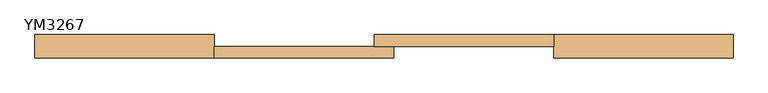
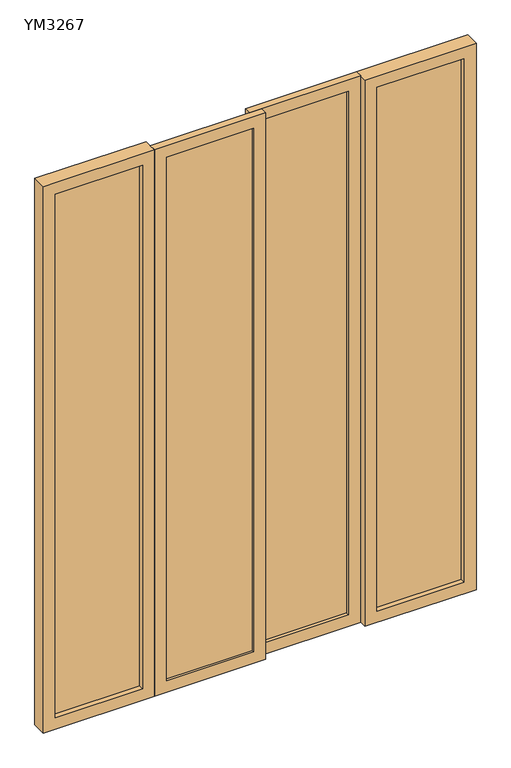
"""IFC4 building model written with IfcOpenShell, lengths in millimetres: door geometry, 移门-推拉门 : YM3267."""

from ifc_helpers import new_model, si_unit, frame, origin, place, context, project, spatial, polyline, outline, extrude, source, transform, mapped, element, save


def ym3267_0cb6c473(model_context):
    return source(origin(), model_context, "Body", "SweptSolid", [
        extrude(outline(polyline([(-25.0, -5.0), (-387.5, -5.0), (-387.5, 5.0), (-25.0, 5.0), (-25.0, -5.0)])), frame((0.0, 0.0, 50.0), z_axis=(0.0, 0.0, 1.0), x_axis=(1.0, 0.0, 0.0)), (0.0, 0.0, 1.0), 2300.0),
        extrude(outline(polyline([(387.5, 30.0), (25.0, 30.0), (25.0, 40.0), (387.5, 40.0), (387.5, 30.0)])), frame((0.0, 0.0, 50.0), z_axis=(0.0, 0.0, 1.0), x_axis=(1.0, 0.0, 0.0)), (0.0, 0.0, 1.0), 2300.0),
        extrude(outline(polyline([(-487.5, 5.7105538), (-850.0, 5.7105538), (-850.0, 25.7105538), (-487.5, 25.7105538), (-487.5, 5.7105538)])), frame((0.0, 0.0, 50.0), z_axis=(0.0, 0.0, 1.0), x_axis=(1.0, 0.0, 0.0)), (0.0, 0.0, 1.0), 2300.0),
        extrude(outline(polyline([(850.0, 5.7105538), (487.5, 5.7105538), (487.5, 25.7105538), (850.0, 25.7105538), (850.0, 5.7105538)])), frame((0.0, 0.0, 50.0), z_axis=(0.0, 0.0, 1.0), x_axis=(1.0, 0.0, 0.0)), (0.0, 0.0, 1.0), 2300.0),
        extrude(outline(polyline([(0.0, 437.5), (2400.0, 437.5), (2400.0, -25.0), (0.0, -25.0), (0.0, 437.5)]), holes=[polyline([(2350.0, 25.0), (2350.0, 387.5), (50.0, 387.5), (50.0, 25.0), (2350.0, 25.0)])]), frame((0.0, 15.0, 0.0), z_axis=(0.0, 1.0, 0.0), x_axis=(0.0, 0.0, 1.0)), (0.0, 0.0, 1.0), 30.0),
        extrude(outline(polyline([(0.0, 25.0), (2400.0, 25.0), (2400.0, -437.5), (0.0, -437.5), (0.0, 25.0)]), holes=[polyline([(2350.0, -387.5), (2350.0, -25.0), (50.0, -25.0), (50.0, -387.5), (2350.0, -387.5)])]), frame((0.0, -15.0, 0.0), z_axis=(0.0, 1.0, 0.0), x_axis=(0.0, 0.0, 1.0)), (0.0, 0.0, 1.0), 30.0),
        extrude(outline(polyline([(0.0, -437.5), (2400.0, -437.5), (2400.0, -900.0), (0.0, -900.0), (0.0, -437.5)]), holes=[polyline([(2350.0, -850.0), (2350.0, -487.5), (50.0, -487.5), (50.0, -850.0), (2350.0, -850.0)])]), frame((0.0, -15.0, 0.0), z_axis=(0.0, 1.0, 0.0), x_axis=(0.0, 0.0, 1.0)), (0.0, 0.0, 1.0), 60.0),
        extrude(outline(polyline([(0.0, 900.0), (2400.0, 900.0), (2400.0, 437.5), (0.0, 437.5), (0.0, 900.0)]), holes=[polyline([(2350.0, 487.5), (2350.0, 850.0), (50.0, 850.0), (50.0, 487.5), (2350.0, 487.5)])]), frame((0.0, -15.0, 0.0), z_axis=(0.0, 1.0, 0.0), x_axis=(0.0, 0.0, 1.0)), (0.0, 0.0, 1.0), 60.0),
    ])


if __name__ == "__main__":
    model = new_model("IFC4")
    model_context = context("Model", 3, world=origin())
    ifc_project = project(units=[si_unit("LENGTHUNIT", "METRE", prefix="MILLI")], contexts=[model_context])
    site = spatial("IfcSite", under=ifc_project)
    building = spatial("IfcBuilding", under=site)
    placement = place(None, origin())
    ym3267_shape = ym3267_0cb6c473(model_context)
    element("IfcDoor", 1, ObjectType="移门-推拉门 : YM3267", at=placement, inside=building, context=model_context, shape_type="MappedRepresentation", body=[
        mapped(ym3267_shape, transform((0.0, 0.0, 0.0), x_axis=(1.0, 0.0, 0.0), y_axis=(0.0, 1.0, 0.0), z_axis=(0.0, 0.0, 1.0))),
    ])
    save(model, "model.ifc")
